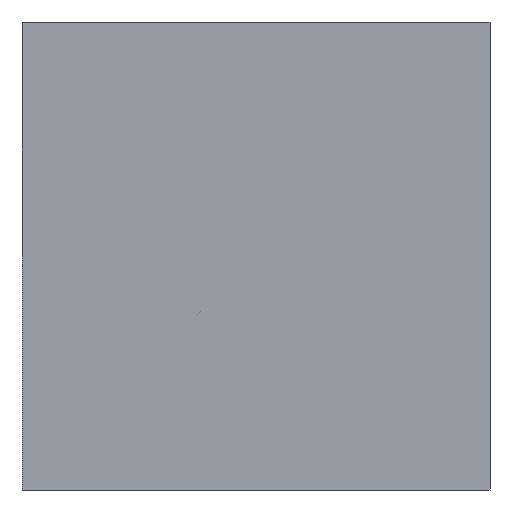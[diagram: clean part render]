
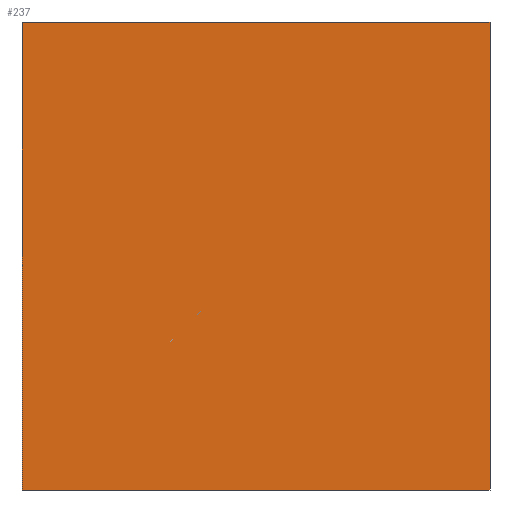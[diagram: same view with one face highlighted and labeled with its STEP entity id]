
A CAD part, front view. The second image highlights one B-rep face of the part: STEP entity #237.
In plain terms, the highlighted planar face has unit normal (0, -1, 0).
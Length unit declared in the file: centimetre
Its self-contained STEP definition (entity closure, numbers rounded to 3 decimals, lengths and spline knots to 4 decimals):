
#7 = VERTEX_POINT ( 'NONE', #181 ) ;
#8 = DIRECTION ( 'NONE',  ( 0., 1., 0. ) ) ;
#10 = LINE ( 'NONE', #18, #158 ) ;
#15 = AXIS2_PLACEMENT_3D ( 'NONE', #308, #8, #126 ) ;
#18 = CARTESIAN_POINT ( 'NONE',  ( 1000., 0., 1000. ) ) ;
#19 = EDGE_CURVE ( 'NONE', #55, #7, #10, .T. ) ;
#20 = CARTESIAN_POINT ( 'NONE',  ( 0., 0., 1000. ) ) ;
#27 = LINE ( 'NONE', #202, #76 ) ;
#37 = VERTEX_POINT ( 'NONE', #390 ) ;
#43 = ORIENTED_EDGE ( 'NONE', *, *, #199, .T. ) ;
#55 = VERTEX_POINT ( 'NONE', #189 ) ;
#63 = EDGE_LOOP ( 'NONE', ( #43, #125, #141, #307 ) ) ;
#76 = VECTOR ( 'NONE', #392, 100. ) ;
#93 = FACE_OUTER_BOUND ( 'NONE', #63, .T. ) ;
#125 = ORIENTED_EDGE ( 'NONE', *, *, #19, .F. ) ;
#126 = DIRECTION ( 'NONE',  ( 0., 0., 1. ) ) ;
#141 = ORIENTED_EDGE ( 'NONE', *, *, #286, .F. ) ;
#158 = VECTOR ( 'NONE', #190, 100. ) ;
#160 = VERTEX_POINT ( 'NONE', #20 ) ;
#161 = DIRECTION ( 'NONE',  ( 0., 0., -1. ) ) ;
#176 = PLANE ( 'NONE',  #15 ) ;
#181 = CARTESIAN_POINT ( 'NONE',  ( 1000., 0., 0. ) ) ;
#189 = CARTESIAN_POINT ( 'NONE',  ( 1000., 0., 1000. ) ) ;
#190 = DIRECTION ( 'NONE',  ( 0., 0., -1. ) ) ;
#194 = CARTESIAN_POINT ( 'NONE',  ( 0., 0., 1000. ) ) ;
#199 = EDGE_CURVE ( 'NONE', #37, #7, #296, .T. ) ;
#202 = CARTESIAN_POINT ( 'NONE',  ( 0., 0., 1000. ) ) ;
#209 = EDGE_CURVE ( 'NONE', #160, #37, #232, .T. ) ;
#232 = LINE ( 'NONE', #194, #365 ) ;
#237 = ADVANCED_FACE ( 'NONE', ( #93 ), #176, .F. ) ;
#286 = EDGE_CURVE ( 'NONE', #160, #55, #27, .T. ) ;
#296 = LINE ( 'NONE', #395, #310 ) ;
#307 = ORIENTED_EDGE ( 'NONE', *, *, #209, .T. ) ;
#308 = CARTESIAN_POINT ( 'NONE',  ( 0., 0., 1000. ) ) ;
#310 = VECTOR ( 'NONE', #393, 100. ) ;
#365 = VECTOR ( 'NONE', #161, 100. ) ;
#390 = CARTESIAN_POINT ( 'NONE',  ( 0., 0., 0. ) ) ;
#392 = DIRECTION ( 'NONE',  ( 1., 0., 0. ) ) ;
#393 = DIRECTION ( 'NONE',  ( 1., 0., 0. ) ) ;
#395 = CARTESIAN_POINT ( 'NONE',  ( 0., 0., 0. ) ) ;
